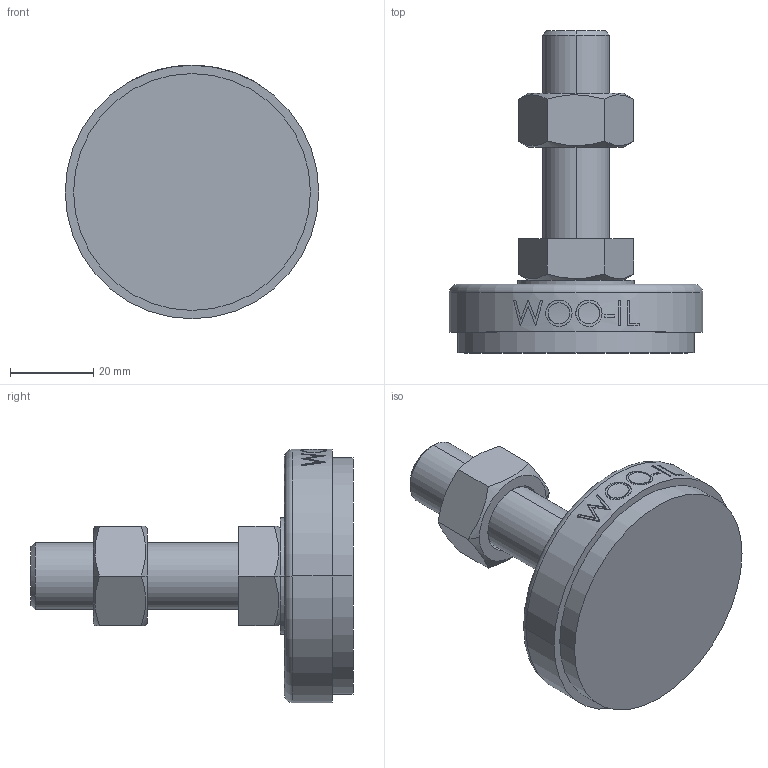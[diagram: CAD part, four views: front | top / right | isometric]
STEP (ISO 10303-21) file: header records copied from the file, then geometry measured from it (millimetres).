
FILE_DESCRIPTION (( 'STEP AP214' ), '1' );
FILE_NAME ('NS61-M16-50.step', '2021-01-11T05:46:16', ( '' ), ( '' ), 'SwSTEP 2.0', 'SolidWorks 2019', '' );
FILE_SCHEMA (( 'AUTOMOTIVE_DESIGN' ));
Length unit declared in the file: millimetre
Products named in the file (2): NS61-M16-50
Bounding box: 61 x 77.5 x 61 mm (x, y, z)
Volume: 65564.6 mm3; surface area: 15367.7 mm2
Topology: 3 solids, 3 shells, 96 faces, 223 edges, 144 vertices
Faces by surface type: plane 48, cylinder 18, bspline 16, cone 12, torus 2
Entity records: 4252 total; most frequent: CARTESIAN_POINT 2127, ORIENTED_EDGE 446, DIRECTION 381, EDGE_CURVE 223, VERTEX_POINT 144, AXIS2_PLACEMENT_3D 142, EDGE_LOOP 109, LINE 97
